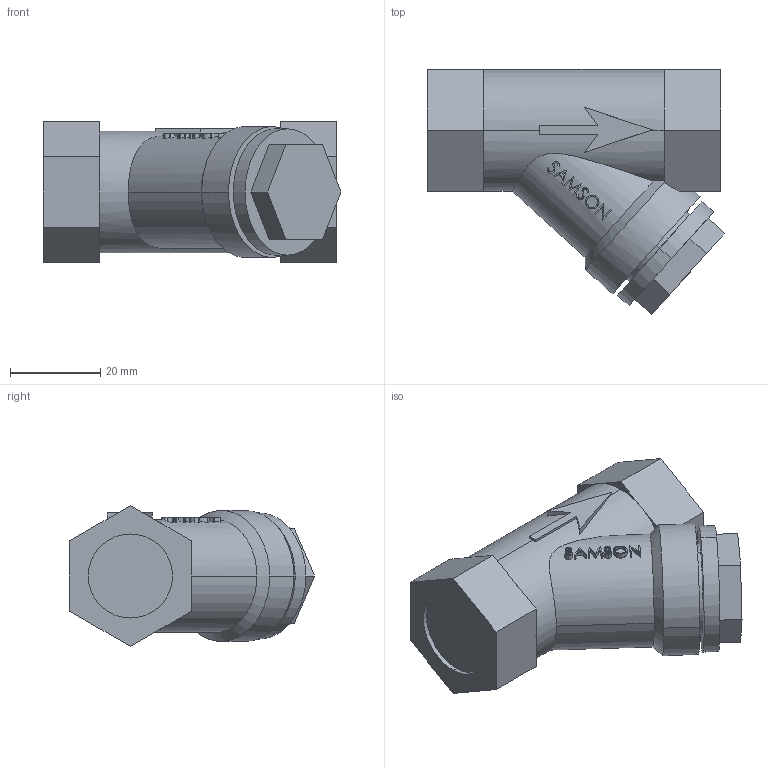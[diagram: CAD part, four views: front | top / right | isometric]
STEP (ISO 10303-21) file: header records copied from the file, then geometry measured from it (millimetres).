
FILE_DESCRIPTION (( 'STEP AP203' ), '1' );
FILE_NAME ('2601_1N_DIN_Gz1-2_025_GTW-40-05_IGWD_std.STEP', '2010-05-25T08:01:32', ( '' ), ( '' ), 'SwSTEP 2.0', 'SolidWorks 2006303', '' );
FILE_SCHEMA (( 'CONFIG_CONTROL_DESIGN' ));
Length unit declared in the file: millimetre
Products named in the file (3): 2601_1N_DIN_Gz1-2_025_GTW-40-05_IGWD_std; Gewindestopfen_Gz1-2_00700622_Standard; Geh2601_1N_DIN_Gz1-2_025_GTW-40-05_IGWD_01014196_Standard
Assembly tree (2 placements, depth 2):
  2601_1N_DIN_Gz1-2_025_GTW-40-05_IGWD_std
    Geh2601_1N_DIN_Gz1-2_025_GTW-40-05_IGWD_01014196_Standard
    Gewindestopfen_Gz1-2_00700622_Standard
Bounding box: 65.9 x 54.28 x 31.18 mm (x, y, z)
Volume: 56130.4 mm3; surface area: 11548.5 mm2
Topology: 2 solids, 2 shells, 153 faces, 393 edges, 257 vertices
Faces by surface type: plane 92, bspline 38, cylinder 20, cone 3
Entity records: 6786 total; most frequent: CARTESIAN_POINT 3127, ORIENTED_EDGE 786, DIRECTION 550, EDGE_CURVE 393, VERTEX_POINT 257, VECTOR 214, LINE 214, AXIS2_PLACEMENT_3D 168
